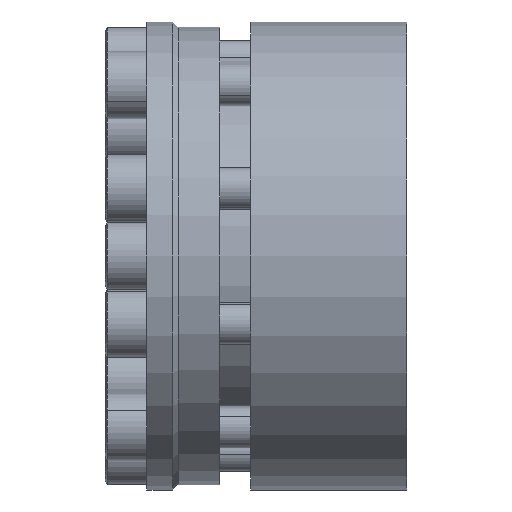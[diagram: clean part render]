
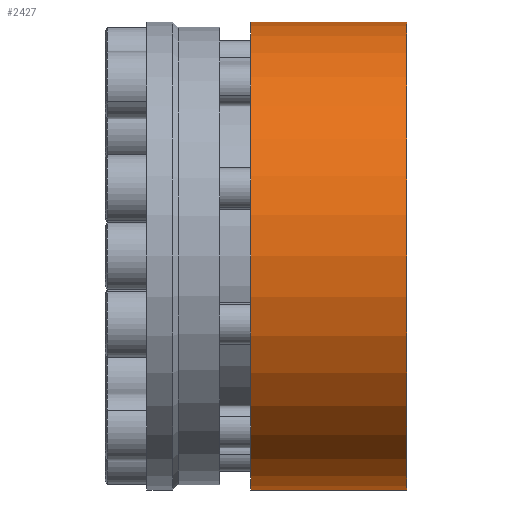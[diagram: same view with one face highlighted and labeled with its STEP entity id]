
A CAD part, front view. The second image highlights one B-rep face of the part: STEP entity #2427.
In plain terms, the highlighted cylindrical face has radius 45 mm (diameter 90 mm), a partial arc.
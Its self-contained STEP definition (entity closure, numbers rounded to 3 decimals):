
#2357 = VERTEX_POINT ( 'NONE', #4747 ) ;
#2358 = VERTEX_POINT ( 'NONE', #4746 ) ;
#2360 = EDGE_CURVE ( 'NONE', #2358, #2361, #4745, .T. ) ;
#2361 = VERTEX_POINT ( 'NONE', #4741 ) ;
#2364 = VERTEX_POINT ( 'NONE', #4804 ) ;
#2366 = EDGE_CURVE ( 'NONE', #2357, #2364, #4803, .T. ) ;
#2427 = ADVANCED_FACE ( 'NONE', ( #4892 ), #4891, .T. ) ;
#2428 = EDGE_LOOP ( 'NONE', ( #2429, #2481, #2482, #2483 ) ) ;
#2429 = ORIENTED_EDGE ( 'NONE', *, *, #2360, .F. ) ;
#2435 = EDGE_CURVE ( 'NONE', #2358, #2357, #4881, .T. ) ;
#2481 = ORIENTED_EDGE ( 'NONE', *, *, #2435, .T. ) ;
#2482 = ORIENTED_EDGE ( 'NONE', *, *, #2366, .T. ) ;
#2483 = ORIENTED_EDGE ( 'NONE', *, *, #2484, .F. ) ;
#2484 = EDGE_CURVE ( 'NONE', #2361, #2364, #4951, .T. ) ;
#4741 = CARTESIAN_POINT ( 'NONE',  ( 20., 0., -45. ) ) ;
#4742 = DIRECTION ( 'NONE',  ( -1., 0., 0. ) ) ;
#4743 = VECTOR ( 'NONE', #4742, 1000. ) ;
#4744 = CARTESIAN_POINT ( 'NONE',  ( 0., 0., -45. ) ) ;
#4745 = LINE ( 'NONE', #4744, #4743 ) ;
#4746 = CARTESIAN_POINT ( 'NONE',  ( 50., 0., -45. ) ) ;
#4747 = CARTESIAN_POINT ( 'NONE',  ( 50., 0., 45. ) ) ;
#4800 = DIRECTION ( 'NONE',  ( -1., 0., 0. ) ) ;
#4801 = VECTOR ( 'NONE', #4800, 1000. ) ;
#4802 = CARTESIAN_POINT ( 'NONE',  ( 0., 0., 45. ) ) ;
#4803 = LINE ( 'NONE', #4802, #4801 ) ;
#4804 = CARTESIAN_POINT ( 'NONE',  ( 20., 0., 45. ) ) ;
#4878 = DIRECTION ( 'NONE',  ( -1., 0., 0. ) ) ;
#4879 = CARTESIAN_POINT ( 'NONE',  ( 50., 0., 0. ) ) ;
#4880 = AXIS2_PLACEMENT_3D ( 'NONE', #4879, #4878, #4937 ) ;
#4881 = CIRCLE ( 'NONE', #4880, 45. ) ;
#4886 = DIRECTION ( 'NONE',  ( 0., 0., 1. ) ) ;
#4887 = DIRECTION ( 'NONE',  ( -1., 0., 0. ) ) ;
#4888 = CARTESIAN_POINT ( 'NONE',  ( 0., 0., 0. ) ) ;
#4889 = AXIS2_PLACEMENT_3D ( 'NONE', #4888, #4887, #4886 ) ;
#4891 = CYLINDRICAL_SURFACE ( 'NONE', #4889, 45. ) ;
#4892 = FACE_OUTER_BOUND ( 'NONE', #2428, .T. ) ;
#4937 = DIRECTION ( 'NONE',  ( 0., 0., 1. ) ) ;
#4947 = DIRECTION ( 'NONE',  ( 0., 0., 1. ) ) ;
#4948 = DIRECTION ( 'NONE',  ( -1., 0., 0. ) ) ;
#4949 = CARTESIAN_POINT ( 'NONE',  ( 20., 0., 0. ) ) ;
#4950 = AXIS2_PLACEMENT_3D ( 'NONE', #4949, #4948, #4947 ) ;
#4951 = CIRCLE ( 'NONE', #4950, 45. ) ;
